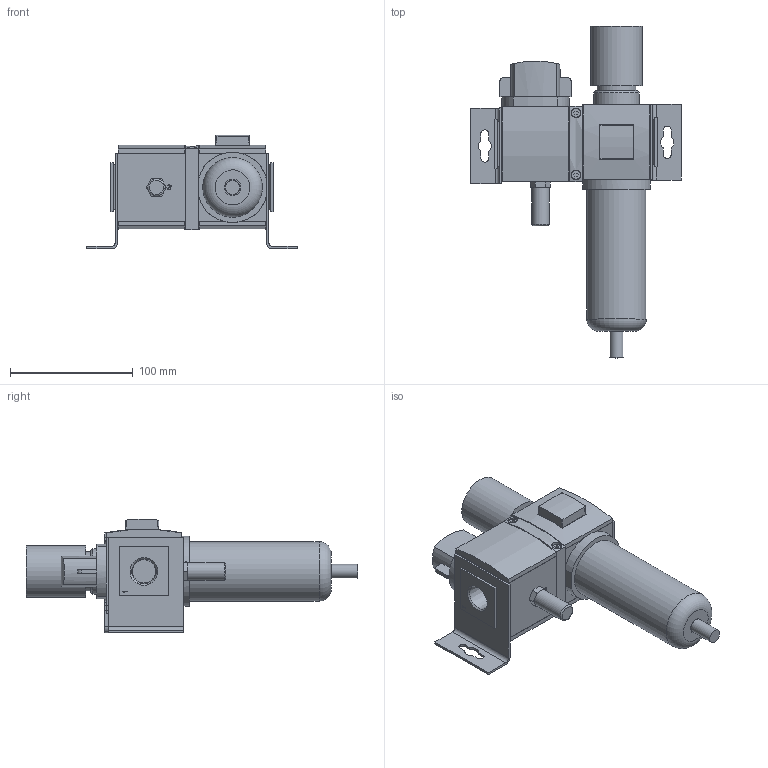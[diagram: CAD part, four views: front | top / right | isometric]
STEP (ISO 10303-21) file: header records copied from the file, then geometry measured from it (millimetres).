
FILE_DESCRIPTION( ( 'STEP AP214' ), '1' );
FILE_NAME( 'p:/temp/worker_39/temp/exporttempdir_4600_490_w1N4L/format_0/12062020-150206_gen_7143.stp', '2020-02-12T14:06:07', ( '' ), ( '' ), ' ', 'PARTsolutions', ' ' );
FILE_SCHEMA( ( 'AUTOMOTIVE_DESIGN { 1 0 10303 214 1 1 1 1 }' ) );
Length unit declared in the file: millimetre
Products named in the file (16): 12062020-150206_gen_7143; _433433015-F--0-A00129L; _433441-002-SV-0; _437742-001-100; _M2MN_652; _G652ASLA0A00A00_LS; _433073-015-F-KA0010AD0L; _433894-001; _440508-001-STANDARD; _433441-001-R-H; _438047-009; _433441-001-R-0; _440511-008-P; _501862-002-C; _8652ASLB0L00A00_LS; _8652ASLB0L00A00_RS
Assembly tree (16 placements, depth 2):
  12062020-150206_gen_7143
    _433433015-F--0-A00129L
    _433441-002-SV-0  x2
    _437742-001-100
    _M2MN_652
    _G652ASLA0A00A00_LS
    _433073-015-F-KA0010AD0L
    _433894-001
    _440508-001-STANDARD
    _433441-001-R-H
    _438047-009
    _433441-001-R-0
    _440511-008-P
    _501862-002-C
    _8652ASLB0L00A00_LS
    _8652ASLB0L00A00_RS
Bounding box: 171.3 x 270.2 x 92.51 mm (x, y, z)
Volume: 889664.3 mm3; surface area: 170717.5 mm2
Topology: 16 solids, 16 shells, 557 faces, 1349 edges, 875 vertices
Faces by surface type: plane 444, cylinder 70, cone 37, torus 6
Full cylindrical faces by diameter (mm): 2.8 x2, 5.6 x4, 6.3 x4, 7 x2, 7.8 x2, 8.25 x4, 10 x4, 11.3 x1, 13.5 x1, 14.224 x1, 15.1 x1, 31.6 x1, 37 x1, 41.845 x1, 48.5 x1
Entity records: 20590 total; most frequent: CARTESIAN_POINT 3123, DIRECTION 2563, ORIENTED_EDGE 2552, EDGE_CURVE 1276, LINE 1047, VECTOR 1047, VERTEX_POINT 865, AXIS2_PLACEMENT_3D 758
